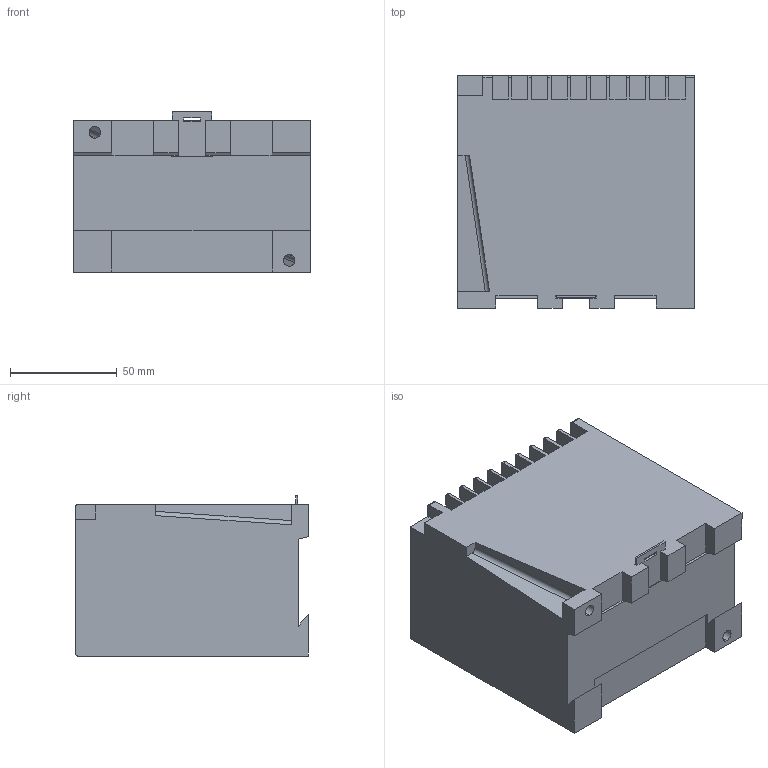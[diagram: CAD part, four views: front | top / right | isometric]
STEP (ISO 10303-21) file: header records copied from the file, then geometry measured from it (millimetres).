
FILE_DESCRIPTION (( 'STEP AP203' ), '1' );
FILE_NAME ('Gehäuse X200.STEP', '2011-03-11T09:56:27', ( 'User' ), ( 'W. Bender' ), 'SwSTEP 2.0', 'SolidWorks 2010', '' );
FILE_SCHEMA (( 'CONFIG_CONTROL_DESIGN' ));
Length unit declared in the file: millimetre
Products named in the file (1): Gehäuse X200
Bounding box: 111 x 109 x 75 mm (x, y, z)
Volume: 792031.6 mm3; surface area: 63293.6 mm2
Topology: 2 solids, 2 shells, 170 faces, 496 edges, 330 vertices
Faces by surface type: plane 142, cylinder 28
Entity records: 5643 total; most frequent: CARTESIAN_POINT 1009, ORIENTED_EDGE 992, DIRECTION 886, EDGE_CURVE 496, VECTOR 440, LINE 440, VERTEX_POINT 330, AXIS2_PLACEMENT_3D 223
